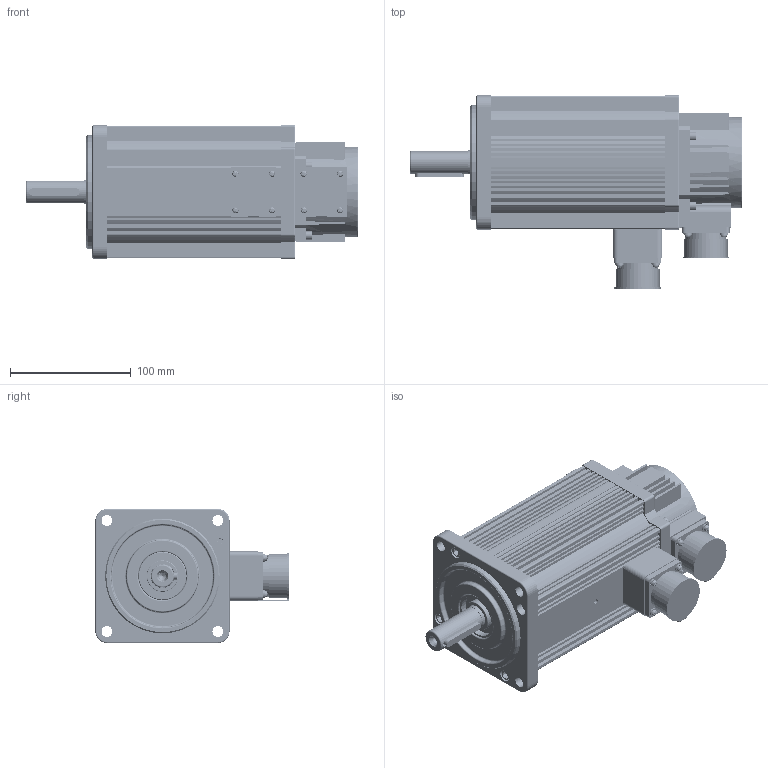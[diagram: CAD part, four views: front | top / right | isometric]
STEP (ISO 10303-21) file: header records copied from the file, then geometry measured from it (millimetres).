
FILE_DESCRIPTION (( 'STEP AP203' ), '1' );
FILE_NAME ('K1-110萇儂蚾饜 6Nm.STEP', '2019-12-23T05:29:13', ( 'gs' ), ( 'Microsoft' ), 'SwSTEP 2.0', 'SolidWorks 2019', '' );
FILE_SCHEMA (( 'CONFIG_CONTROL_DESIGN' ));
Length unit declared in the file: millimetre
Products named in the file (24): K1-110ヶ傷裔 譙跡; M5X20; curved single coil spring lock washers gb_GB_FASTENER_WASHER_CSLW 4; K1-110萇儂蚾饜 6Nm; K1-110綴傷裔 譙跡; K1-130瑤脣15郋; M3X12啋儂; K1-110粣(1800W); K1-130瑤脣砎蝶菜; M3X8啋儂; K1-110蛌赽郪璃1800W; K1-130盄簽砎蝶菜; K1-130す瑩; K1-110晤鎢ん誘欶; K1-130諉盄釱; K1-110 O型密封圈变形后; K1-110儂褲樓馱綴1800W; K1-110密封圈; M4X12; K1-130誘欶躇猾菜; K1-110隅赽郪璃1800W; M5粟菜; M3す菜; K1-130瑤脣雄薯盄
Assembly tree (73 placements, depth 3):
  K1-110萇儂蚾饜 6Nm
    K1-110隅赽郪璃1800W
      K1-110儂褲樓馱綴1800W
    K1-110ヶ傷裔 譙跡
    K1-110綴傷裔 譙跡
    K1-110蛌赽郪璃1800W
      K1-110粣(1800W)
    K1-110晤鎢ん誘欶
    K1-110密封圈
    M5粟菜  x8
    M5X20  x7
    K1-130瑤脣15郋
    K1-130瑤脣砎蝶菜
    K1-130盄簽砎蝶菜  x2
    K1-130諉盄釱
    M4X12  x4
    M3す菜  x12
    curved single coil spring lock washers gb_GB_FASTENER_WASHER_CSLW 4  x12
    M3X12啋儂  x8
    M3X8啋儂  x4
    K1-130す瑩
    K1-110 O型密封圈变形后  x2
    K1-130誘欶躇猾菜
    K1-130瑤脣雄薯盄
Bounding box: 275 x 160.2 x 111.2 mm (x, y, z)
Volume: 792905.4 mm3; surface area: 407147.8 mm2
Topology: 73 solids, 75 shells, 3440 faces, 9264 edges, 6094 vertices
Faces by surface type: cylinder 2099, plane 1063, bspline 143, cone 73, torus 62
Entity records: 118363 total; most frequent: CARTESIAN_POINT 67385, ORIENTED_EDGE 10808, DIRECTION 8938, EDGE_CURVE 5404, VERTEX_POINT 3551, AXIS2_PLACEMENT_3D 3159, VECTOR 2620, LINE 2620
